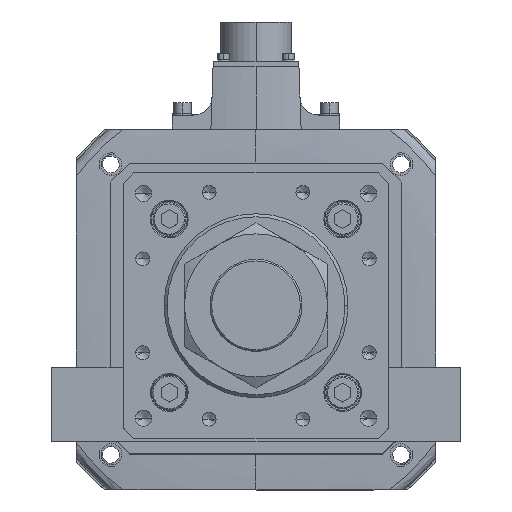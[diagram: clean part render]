
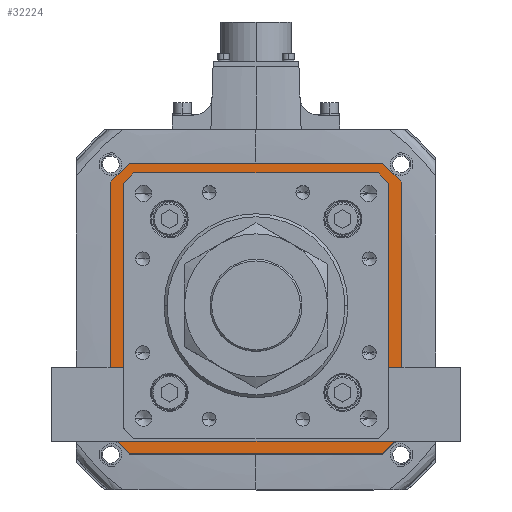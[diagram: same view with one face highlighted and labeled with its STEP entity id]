
A CAD part, top view. The second image highlights one B-rep face of the part: STEP entity #32224.
In plain terms, the highlighted planar face has unit normal (0, 0, 1).
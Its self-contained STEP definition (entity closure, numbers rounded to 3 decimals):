
#998 = FACE_OUTER_BOUND ( 'NONE', #24144, .T. ) ;
#1108 = VERTEX_POINT ( 'NONE', #36509 ) ;
#2027 = VERTEX_POINT ( 'NONE', #28224 ) ;
#2087 = VERTEX_POINT ( 'NONE', #6693 ) ;
#2218 = EDGE_CURVE ( 'NONE', #28804, #17260, #2358, .T. ) ;
#2358 = LINE ( 'NONE', #50612, #21945 ) ;
#2570 = CARTESIAN_POINT ( 'NONE',  ( 62., -71., -142. ) ) ;
#2757 = CARTESIAN_POINT ( 'NONE',  ( 62., -71., -142. ) ) ;
#3039 = CARTESIAN_POINT ( 'NONE',  ( 71., 62., -142. ) ) ;
#3966 = ORIENTED_EDGE ( 'NONE', *, *, #8114, .F. ) ;
#5400 = VECTOR ( 'NONE', #9275, 1000. ) ;
#5479 = VECTOR ( 'NONE', #39497, 1000. ) ;
#5854 = ORIENTED_EDGE ( 'NONE', *, *, #2218, .F. ) ;
#6243 = DIRECTION ( 'NONE',  ( 1., 0., 0. ) ) ;
#6693 = CARTESIAN_POINT ( 'NONE',  ( -62., -71., -142. ) ) ;
#6975 = VECTOR ( 'NONE', #31475, 1000. ) ;
#7074 = EDGE_CURVE ( 'NONE', #2027, #39392, #21669, .T. ) ;
#7242 = ORIENTED_EDGE ( 'NONE', *, *, #12446, .F. ) ;
#8114 = EDGE_CURVE ( 'NONE', #53829, #22203, #31774, .T. ) ;
#8389 = CARTESIAN_POINT ( 'NONE',  ( 71., -62., -142. ) ) ;
#8622 = EDGE_CURVE ( 'NONE', #51977, #28804, #23644, .T. ) ;
#9001 = EDGE_CURVE ( 'NONE', #17928, #53328, #51889, .T. ) ;
#9275 = DIRECTION ( 'NONE',  ( -1., 0., 0. ) ) ;
#9304 = ORIENTED_EDGE ( 'NONE', *, *, #55799, .T. ) ;
#9406 = ORIENTED_EDGE ( 'NONE', *, *, #7074, .T. ) ;
#10004 = PLANE ( 'NONE',  #34278 ) ;
#10124 = LINE ( 'NONE', #17619, #32402 ) ;
#10243 = CARTESIAN_POINT ( 'NONE',  ( -58.793, 63., -142. ) ) ;
#10655 = ORIENTED_EDGE ( 'NONE', *, *, #8622, .F. ) ;
#10755 = DIRECTION ( 'NONE',  ( 0., 0., 1. ) ) ;
#11691 = CARTESIAN_POINT ( 'NONE',  ( 58.793, 63., -142. ) ) ;
#12446 = EDGE_CURVE ( 'NONE', #17260, #19182, #52234, .T. ) ;
#12689 = EDGE_CURVE ( 'NONE', #22203, #2087, #29989, .T. ) ;
#13429 = VECTOR ( 'NONE', #45983, 1000. ) ;
#13710 = CARTESIAN_POINT ( 'NONE',  ( 63., 0., -142. ) ) ;
#13819 = DIRECTION ( 'NONE',  ( -0.707, 0.707, 0. ) ) ;
#13954 = ORIENTED_EDGE ( 'NONE', *, *, #50845, .F. ) ;
#14937 = ORIENTED_EDGE ( 'NONE', *, *, #34854, .T. ) ;
#16009 = EDGE_CURVE ( 'NONE', #37342, #53829, #46455, .T. ) ;
#16223 = LINE ( 'NONE', #13710, #29080 ) ;
#16311 = CARTESIAN_POINT ( 'NONE',  ( 71., 62., -142. ) ) ;
#16846 = DIRECTION ( 'NONE',  ( -0.707, -0.707, 0. ) ) ;
#16886 = LINE ( 'NONE', #52635, #5400 ) ;
#17260 = VERTEX_POINT ( 'NONE', #43800 ) ;
#17619 = CARTESIAN_POINT ( 'NONE',  ( 60.896, -60.896, -142. ) ) ;
#17735 = DIRECTION ( 'NONE',  ( 0., -1., 0. ) ) ;
#17928 = VERTEX_POINT ( 'NONE', #11691 ) ;
#18572 = DIRECTION ( 'NONE',  ( 0., 1., 0. ) ) ;
#19182 = VERTEX_POINT ( 'NONE', #25919 ) ;
#19208 = VERTEX_POINT ( 'NONE', #34184 ) ;
#19374 = ORIENTED_EDGE ( 'NONE', *, *, #12689, .F. ) ;
#19409 = DIRECTION ( 'NONE',  ( 1., 0., 0. ) ) ;
#21669 = LINE ( 'NONE', #27027, #34486 ) ;
#21945 = VECTOR ( 'NONE', #28614, 1000. ) ;
#22203 = VERTEX_POINT ( 'NONE', #2570 ) ;
#22304 = CARTESIAN_POINT ( 'NONE',  ( 0., 63., -142. ) ) ;
#23048 = LINE ( 'NONE', #47836, #5479 ) ;
#23059 = DIRECTION ( 'NONE',  ( 1., 0., 0. ) ) ;
#23644 = LINE ( 'NONE', #40202, #32405 ) ;
#23792 = CARTESIAN_POINT ( 'NONE',  ( 60.896, 60.896, -142. ) ) ;
#24144 = EDGE_LOOP ( 'NONE', ( #7242, #5854, #10655, #13954, #19374, #3966, #31789, #44314 ) ) ;
#24311 = VECTOR ( 'NONE', #23059, 1000. ) ;
#25919 = CARTESIAN_POINT ( 'NONE',  ( 62., 71., -142. ) ) ;
#25983 = DIRECTION ( 'NONE',  ( -0.707, -0.707, 0. ) ) ;
#26626 = VECTOR ( 'NONE', #19409, 1000. ) ;
#27027 = CARTESIAN_POINT ( 'NONE',  ( -60.896, 60.896, -142. ) ) ;
#28224 = CARTESIAN_POINT ( 'NONE',  ( -63., 58.793, -142. ) ) ;
#28614 = DIRECTION ( 'NONE',  ( 0.707, 0.707, 0. ) ) ;
#28804 = VERTEX_POINT ( 'NONE', #36232 ) ;
#29080 = VECTOR ( 'NONE', #52910, 1000. ) ;
#29989 = LINE ( 'NONE', #2757, #43409 ) ;
#30849 = EDGE_CURVE ( 'NONE', #19208, #1108, #10124, .T. ) ;
#31213 = CARTESIAN_POINT ( 'NONE',  ( -62., -71., -142. ) ) ;
#31475 = DIRECTION ( 'NONE',  ( -0.707, 0.707, 0. ) ) ;
#31774 = LINE ( 'NONE', #8389, #55963 ) ;
#31789 = ORIENTED_EDGE ( 'NONE', *, *, #16009, .F. ) ;
#32224 = ADVANCED_FACE ( 'NONE', ( #46834, #998 ), #10004, .T. ) ;
#32402 = VECTOR ( 'NONE', #16846, 1000. ) ;
#32405 = VECTOR ( 'NONE', #18572, 1000. ) ;
#33061 = LINE ( 'NONE', #22304, #24311 ) ;
#34184 = CARTESIAN_POINT ( 'NONE',  ( 63., -58.793, -142. ) ) ;
#34278 = AXIS2_PLACEMENT_3D ( 'NONE', #40152, #10755, #6243 ) ;
#34289 = ORIENTED_EDGE ( 'NONE', *, *, #49127, .T. ) ;
#34486 = VECTOR ( 'NONE', #39796, 1000. ) ;
#34716 = CARTESIAN_POINT ( 'NONE',  ( 63., 58.793, -142. ) ) ;
#34854 = EDGE_CURVE ( 'NONE', #39392, #17928, #33061, .T. ) ;
#34965 = VECTOR ( 'NONE', #13819, 1000. ) ;
#35566 = ORIENTED_EDGE ( 'NONE', *, *, #41688, .T. ) ;
#36232 = CARTESIAN_POINT ( 'NONE',  ( -71., 62., -142. ) ) ;
#36509 = CARTESIAN_POINT ( 'NONE',  ( 58.793, -63., -142. ) ) ;
#36686 = DIRECTION ( 'NONE',  ( -1., 0., 0. ) ) ;
#36728 = CARTESIAN_POINT ( 'NONE',  ( 62., 71., -142. ) ) ;
#36909 = CARTESIAN_POINT ( 'NONE',  ( 71., 62., -142. ) ) ;
#37342 = VERTEX_POINT ( 'NONE', #36909 ) ;
#37715 = VERTEX_POINT ( 'NONE', #43290 ) ;
#39392 = VERTEX_POINT ( 'NONE', #10243 ) ;
#39497 = DIRECTION ( 'NONE',  ( 0., 1., 0. ) ) ;
#39618 = LINE ( 'NONE', #31213, #34965 ) ;
#39796 = DIRECTION ( 'NONE',  ( 0.707, 0.707, 0. ) ) ;
#40152 = CARTESIAN_POINT ( 'NONE',  ( 0., 0., -142. ) ) ;
#40202 = CARTESIAN_POINT ( 'NONE',  ( -71., 62., -142. ) ) ;
#41361 = CARTESIAN_POINT ( 'NONE',  ( -63., -58.793, -142. ) ) ;
#41404 = LINE ( 'NONE', #52922, #6975 ) ;
#41688 = EDGE_CURVE ( 'NONE', #1108, #37715, #16886, .T. ) ;
#43290 = CARTESIAN_POINT ( 'NONE',  ( -58.793, -63., -142. ) ) ;
#43409 = VECTOR ( 'NONE', #36686, 1000. ) ;
#43800 = CARTESIAN_POINT ( 'NONE',  ( -62., 71., -142. ) ) ;
#44314 = ORIENTED_EDGE ( 'NONE', *, *, #47286, .F. ) ;
#44324 = ORIENTED_EDGE ( 'NONE', *, *, #47036, .T. ) ;
#45049 = ORIENTED_EDGE ( 'NONE', *, *, #9001, .T. ) ;
#45983 = DIRECTION ( 'NONE',  ( 0.707, -0.707, 0. ) ) ;
#46455 = LINE ( 'NONE', #3039, #55229 ) ;
#46460 = DIRECTION ( 'NONE',  ( 0.707, -0.707, 0. ) ) ;
#46834 = FACE_BOUND ( 'NONE', #51456, .T. ) ;
#47036 = EDGE_CURVE ( 'NONE', #37715, #52206, #41404, .T. ) ;
#47286 = EDGE_CURVE ( 'NONE', #19182, #37342, #55904, .T. ) ;
#47836 = CARTESIAN_POINT ( 'NONE',  ( -63., 0., -142. ) ) ;
#48003 = CARTESIAN_POINT ( 'NONE',  ( -71., -62., -142. ) ) ;
#49127 = EDGE_CURVE ( 'NONE', #53328, #19208, #16223, .T. ) ;
#50604 = ORIENTED_EDGE ( 'NONE', *, *, #30849, .T. ) ;
#50612 = CARTESIAN_POINT ( 'NONE',  ( -62., 71., -142. ) ) ;
#50845 = EDGE_CURVE ( 'NONE', #2087, #51977, #39618, .T. ) ;
#51215 = CARTESIAN_POINT ( 'NONE',  ( 71., -62., -142. ) ) ;
#51456 = EDGE_LOOP ( 'NONE', ( #34289, #50604, #35566, #44324, #9304, #9406, #14937, #45049 ) ) ;
#51781 = VECTOR ( 'NONE', #46460, 1000. ) ;
#51889 = LINE ( 'NONE', #23792, #13429 ) ;
#51977 = VERTEX_POINT ( 'NONE', #48003 ) ;
#52206 = VERTEX_POINT ( 'NONE', #41361 ) ;
#52234 = LINE ( 'NONE', #36728, #26626 ) ;
#52635 = CARTESIAN_POINT ( 'NONE',  ( 0., -63., -142. ) ) ;
#52910 = DIRECTION ( 'NONE',  ( 0., -1., 0. ) ) ;
#52922 = CARTESIAN_POINT ( 'NONE',  ( -60.896, -60.896, -142. ) ) ;
#53328 = VERTEX_POINT ( 'NONE', #34716 ) ;
#53829 = VERTEX_POINT ( 'NONE', #51215 ) ;
#55229 = VECTOR ( 'NONE', #17735, 1000. ) ;
#55799 = EDGE_CURVE ( 'NONE', #52206, #2027, #23048, .T. ) ;
#55904 = LINE ( 'NONE', #16311, #51781 ) ;
#55963 = VECTOR ( 'NONE', #25983, 1000. ) ;
